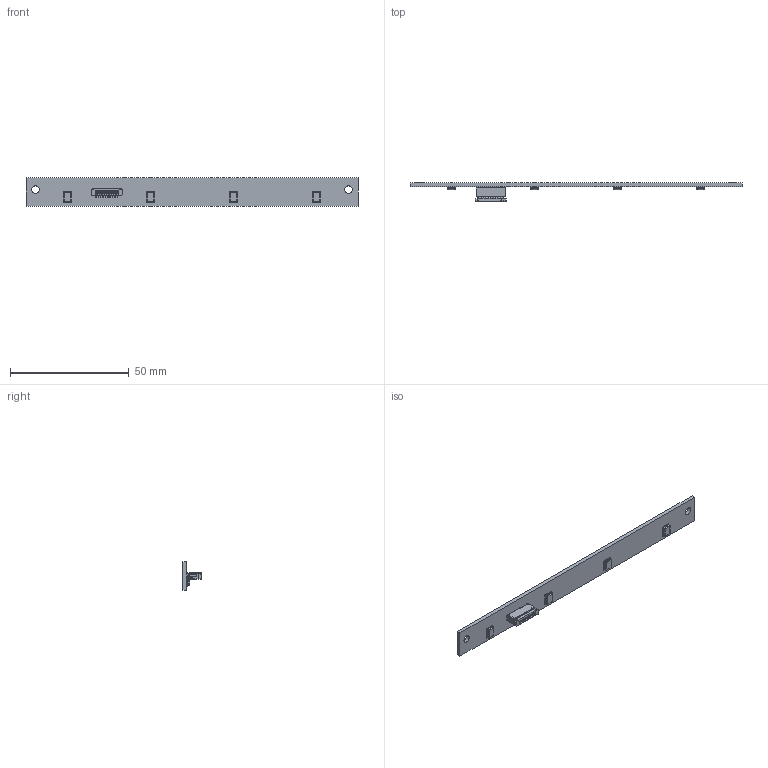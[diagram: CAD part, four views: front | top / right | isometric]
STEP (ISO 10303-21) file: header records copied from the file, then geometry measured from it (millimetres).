
FILE_DESCRIPTION((''),'2;1');
FILE_NAME('MIC_PCB_LINEAR_ASSY_ASM','2020-08-21T',('G6003023'),(''),'PRO/ENGINEER BY PARAMETRIC TECHNOLOGY CORPORATION, 2013150','PRO/ENGINEER BY PARAMETRIC TECHNOLOGY CORPORATION, 2013150','');
FILE_SCHEMA(('CONFIG_CONTROL_DESIGN'));
Length unit declared in the file: millimetre
Products named in the file (18): MIC_PCB_LINEAR; SPM0687LR5X_REV_1_SW; MSBR-13-001; MSBR-12-001; MSBR-11-001; MSBR-10-001; MSBR-9-001; MSBR-8-001; MSBR-7-001; MSBR-6-001; MSBR-5-001; MSBR-4-001; MSBR-3-001; MSBR-2-001; MSBR-1-001; HS6110E-10PIN_ASM; SH1_0MM-10P; MIC_PCB_LINEAR_ASSY_ASM
Assembly tree (20 placements, depth 3):
  MIC_PCB_LINEAR_ASSY_ASM
    MIC_PCB_LINEAR
    SPM0687LR5X_REV_1_SW  x4
    HS6110E-10PIN_ASM
      MSBR-13-001
      MSBR-12-001
      MSBR-11-001
      MSBR-10-001
      MSBR-9-001
      MSBR-8-001
      MSBR-7-001
      MSBR-6-001
      MSBR-5-001
      MSBR-4-001
      MSBR-3-001
      MSBR-2-001
      MSBR-1-001
    SH1_0MM-10P
Bounding box: 140 x 7.8 x 12 mm (x, y, z)
Volume: 2876 mm3; surface area: 4932.5 mm2
Topology: 19 solids, 19 shells, 1705 faces, 4737 edges, 3102 vertices
Faces by surface type: plane 1195, cylinder 398, bspline 112
Entity records: 47999 total; most frequent: CARTESIAN_POINT 8980, ORIENTED_EDGE 8298, DIRECTION 7757, EDGE_CURVE 4149, VECTOR 3449, LINE 3449, VERTEX_POINT 2730, AXIS2_PLACEMENT_3D 2154
